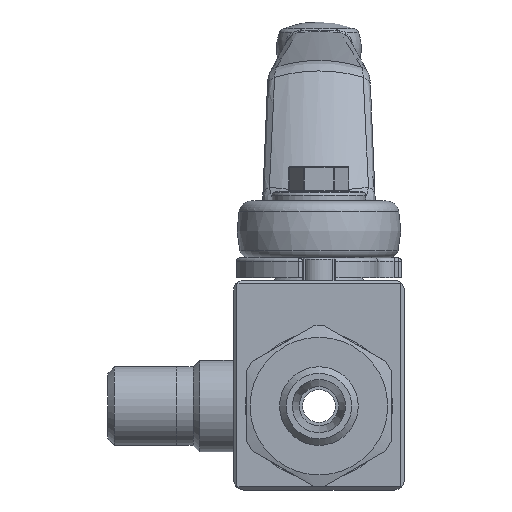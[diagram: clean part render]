
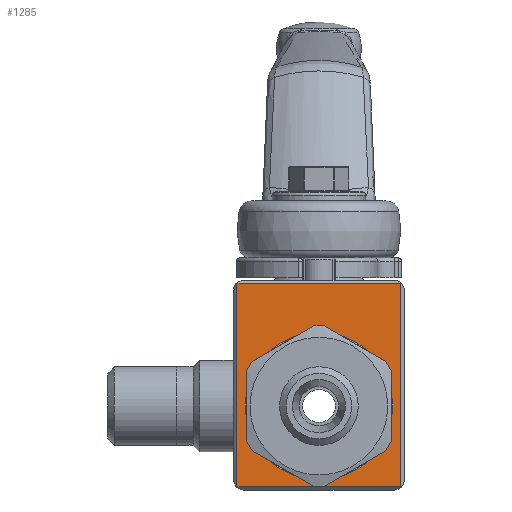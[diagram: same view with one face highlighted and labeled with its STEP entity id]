
A CAD part, front view. The second image highlights one B-rep face of the part: STEP entity #1285.
In plain terms, the highlighted planar face has unit normal (0, -1, 0).
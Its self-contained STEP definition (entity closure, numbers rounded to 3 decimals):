
#1285 = ADVANCED_FACE( '', ( #2558, #2559 ), #2560, .F. );
#2558 = FACE_BOUND( '', #4977, .T. );
#2559 = FACE_OUTER_BOUND( '', #4978, .T. );
#2560 = PLANE( '', #4979 );
#4977 = EDGE_LOOP( '', ( #7891 ) );
#4978 = EDGE_LOOP( '', ( #7892, #7893, #7894, #7895 ) );
#4979 = AXIS2_PLACEMENT_3D( '', #7896, #7897, #7898 );
#7891 = ORIENTED_EDGE( '', *, *, #8917, .T. );
#7892 = ORIENTED_EDGE( '', *, *, #9447, .T. );
#7893 = ORIENTED_EDGE( '', *, *, #8307, .T. );
#7894 = ORIENTED_EDGE( '', *, *, #9477, .T. );
#7895 = ORIENTED_EDGE( '', *, *, #8850, .T. );
#7896 = CARTESIAN_POINT( '', ( -13., -18.1, 19.2 ) );
#7897 = DIRECTION( '', ( 0., 1., 0. ) );
#7898 = DIRECTION( '', ( 0., 0., 1. ) );
#8307 = EDGE_CURVE( '', #9572, #9570, #9573, .T. );
#8850 = EDGE_CURVE( '', #10466, #10467, #10468, .T. );
#8917 = EDGE_CURVE( '', #10566, #10566, #10567, .T. );
#9447 = EDGE_CURVE( '', #10467, #9572, #11240, .T. );
#9477 = EDGE_CURVE( '', #9570, #10466, #11272, .T. );
#9570 = VERTEX_POINT( '', #11379 );
#9572 = VERTEX_POINT( '', #11382 );
#9573 = LINE( '', #11383, #11384 );
#10466 = VERTEX_POINT( '', #13135 );
#10467 = VERTEX_POINT( '', #13136 );
#10468 = LINE( '', #13137, #13138 );
#10566 = VERTEX_POINT( '', #13289 );
#10567 = CIRCLE( '', #13290, 11.25 );
#11240 = LINE( '', #14618, #14619 );
#11272 = LINE( '', #14660, #14661 );
#11379 = CARTESIAN_POINT( '', ( 12.5, -18.1, -12.3 ) );
#11382 = CARTESIAN_POINT( '', ( -12.5, -18.1, -12.3 ) );
#11383 = CARTESIAN_POINT( '', ( -13., -18.1, -12.3 ) );
#11384 = VECTOR( '', #14767, 1000. );
#13135 = CARTESIAN_POINT( '', ( 12.5, -18.1, 18.7 ) );
#13136 = CARTESIAN_POINT( '', ( -12.5, -18.1, 18.7 ) );
#13137 = CARTESIAN_POINT( '', ( -13., -18.1, 18.7 ) );
#13138 = VECTOR( '', #15548, 1000. );
#13289 = CARTESIAN_POINT( '', ( 0., -18.1, -11.25 ) );
#13290 = AXIS2_PLACEMENT_3D( '', #15633, #15634, #15635 );
#14618 = CARTESIAN_POINT( '', ( -12.5, -18.1, 19.2 ) );
#14619 = VECTOR( '', #16232, 1000. );
#14660 = CARTESIAN_POINT( '', ( 12.5, -18.1, 19.2 ) );
#14661 = VECTOR( '', #16255, 1000. );
#14767 = DIRECTION( '', ( 1., 0., 0. ) );
#15548 = DIRECTION( '', ( -1., 0., 0. ) );
#15633 = CARTESIAN_POINT( '', ( 0., -18.1, 0. ) );
#15634 = DIRECTION( '', ( 0., 1., 0. ) );
#15635 = DIRECTION( '', ( 0., 0., -1. ) );
#16232 = DIRECTION( '', ( 0., 0., -1. ) );
#16255 = DIRECTION( '', ( 0., 0., 1. ) );
